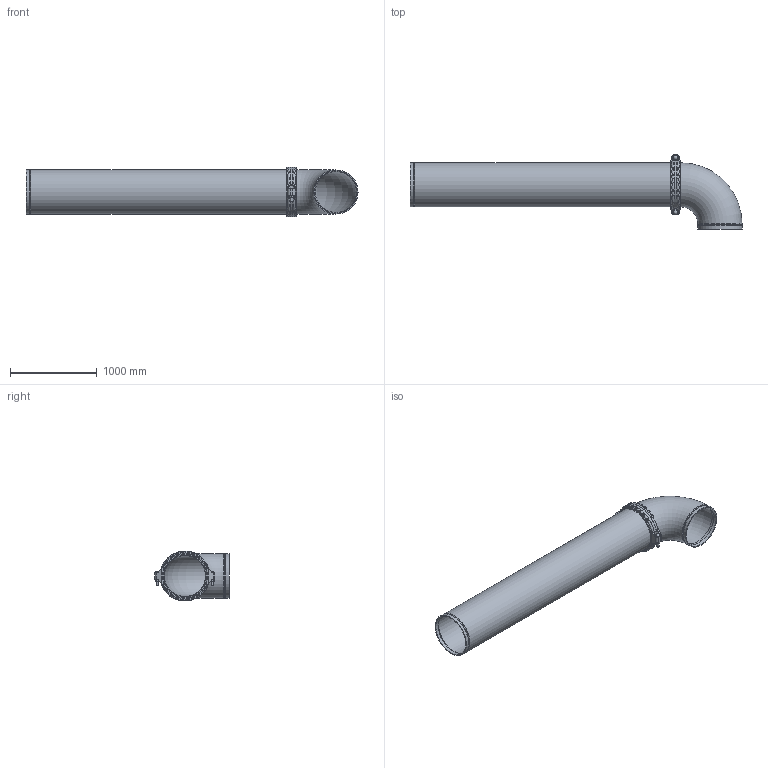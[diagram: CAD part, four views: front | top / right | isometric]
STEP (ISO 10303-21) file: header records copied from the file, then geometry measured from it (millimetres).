
FILE_DESCRIPTION(/* description */ ('VIC AGS LONG RUN FITTING No WR23 (AGS)','CAx-IF Rec.Pracs.---Representation and Presentation of Product Manufacturing Information (PMI)---4.0---2014-10-13'),/* implementation_level */ '2;1');
FILE_NAME(/* name */ 'C:\Users\kkamble\AppData\Roaming\Autodesk\ApplicationPlugins\Back Up\Victaulic_AGS_Long Run Fittings_No WR23 (AGS)\Victaulic_AGS_Long Run Fittings_No WR23 (AGS)_20 (500).stp',/* time_stamp */ '2020-10-07T02:22:26+06:00',/* author */ ('kkamble'),/* organization */ ('Victaulic'),/* preprocessor_version */ 'ST-DEVELOPER v17.2',/* originating_system */ 'Autodesk Inventor 2019',/* authorisation */ '');
FILE_SCHEMA (('AP242_MANAGED_MODEL_BASED_3D_ENGINEERING_MIM_LF { 1 0 10303 442 1 1 4 }'));
Length unit declared in the file: inch
Products named in the file (4): WR23-20.0; WR23-20.0_1; W77-20.0; W10-20.0
Assembly tree (3 placements, depth 2):
  WR23-20.0
    WR23-20.0_1
    W77-20.0
    W10-20.0
Bounding box: 3817.87 x 852.55 x 574.7 mm (x, y, z)
Volume: 72904155.9 mm3; surface area: 12817908.9 mm2
Topology: 3 solids, 5 shells, 287 faces, 838 edges, 573 vertices
Faces by surface type: cylinder 121, plane 106, torus 50, cone 8, sphere 2
Full cylindrical faces by diameter (mm): 28.575 x4, 47.625 x2, 473.964 x2, 482.6 x1, 488.95 x1, 495.3 x4, 508 x9
Entity records: 12390 total; most frequent: CARTESIAN_POINT 4305, ORIENTED_EDGE 1676, DIRECTION 1577, EDGE_CURVE 838, AXIS2_PLACEMENT_3D 637, VERTEX_POINT 573, CIRCLE 339, EDGE_LOOP 309
